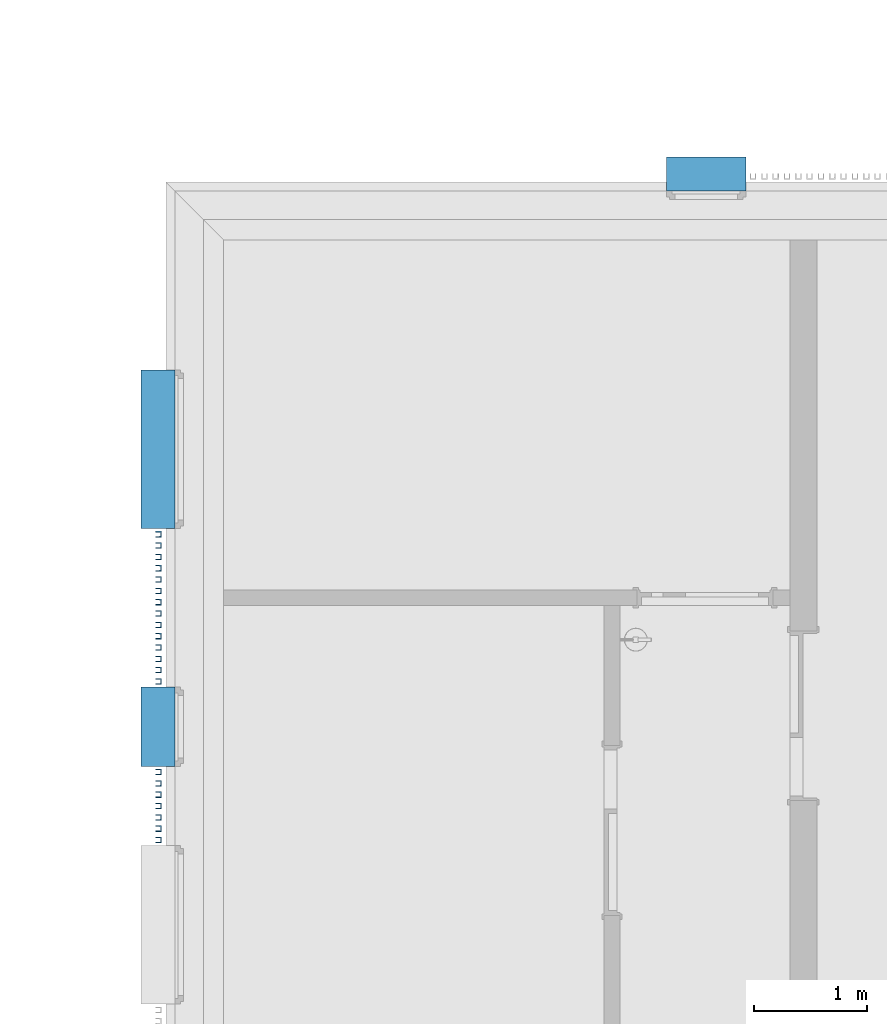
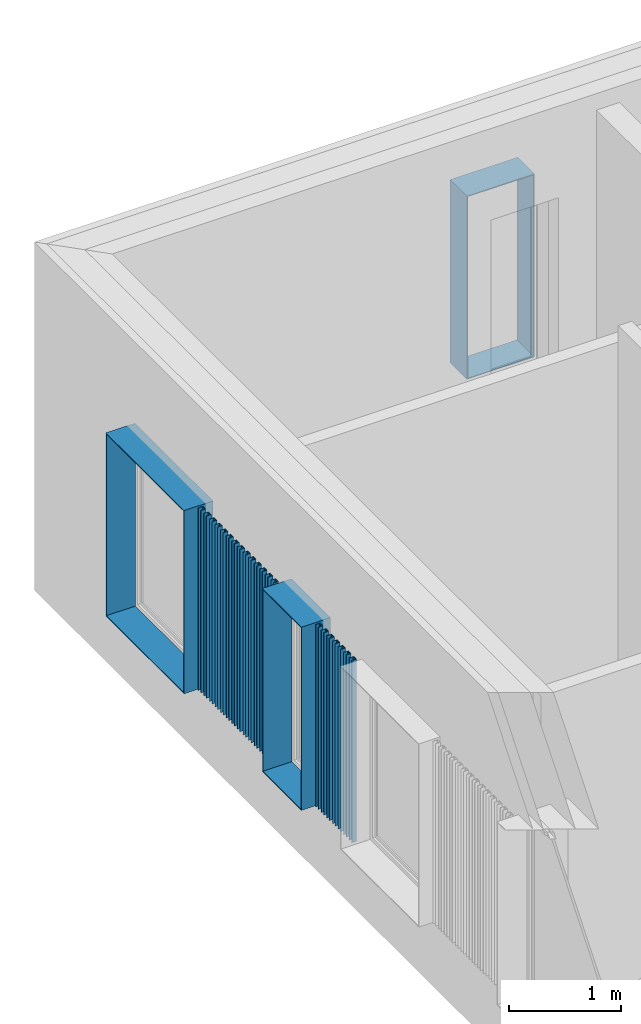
# One storey, part 44 of 100: 24 discrete accessories.
"""IFC2X3 building model written with IfcOpenShell, lengths in millimetres."""

from ifc_helpers import new_model, entity, si_unit, converted_unit, derived_unit, money_unit, direction, frame, origin_with_axes, place, context, subcontext, project, spatial, faceted_brep, source, transform, mapped, material, type_object, element, save


model = new_model("IFC2X3")

# Units and contexts
model_context = context("Model", 3, precision=0.01, world=origin_with_axes(), true_north=direction((0.0, 1.0)))
body_context = subcontext(model_context, "Body", "Model", "MODEL_VIEW")
ifc_project = project(units=[si_unit("LENGTHUNIT", "METRE", prefix="MILLI"), si_unit("AREAUNIT", "SQUARE_METRE"), si_unit("VOLUMEUNIT", "CUBIC_METRE"), converted_unit("PLANEANGLEUNIT", "DEGREE", entity("IfcPlaneAngleMeasure", 0.0174532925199), si_unit("PLANEANGLEUNIT", "RADIAN"), dimensions=[0, 0, 0, 0, 0, 0, 0]), si_unit("SOLIDANGLEUNIT", "STERADIAN"), money_unit("EUR"), converted_unit("TIMEUNIT", "Year", entity("IfcTimeMeasure", 31556926.0), si_unit("TIMEUNIT", "SECOND"), dimensions=[0, 0, 1, 0, 0, 0, 0]), si_unit("MASSUNIT", "GRAM", prefix="KILO"), si_unit("THERMODYNAMICTEMPERATUREUNIT", "DEGREE_CELSIUS"), si_unit("LUMINOUSINTENSITYUNIT", "LUMEN"), si_unit("ENERGYUNIT", "JOULE", prefix="MEGA"), derived_unit("THERMALCONDUCTANCEUNIT", [(si_unit("POWERUNIT", "WATT"), 1), (si_unit("LENGTHUNIT", "METRE"), -1), (si_unit("THERMODYNAMICTEMPERATUREUNIT", "KELVIN"), -1)]), derived_unit("SPECIFICHEATCAPACITYUNIT", [(si_unit("ENERGYUNIT", "JOULE"), 1), (si_unit("MASSUNIT", "GRAM", prefix="KILO"), -1), (si_unit("THERMODYNAMICTEMPERATUREUNIT", "KELVIN"), -1)]), derived_unit("MASSDENSITYUNIT", [(si_unit("MASSUNIT", "GRAM", prefix="KILO"), 1), (si_unit("VOLUMEUNIT", "CUBIC_METRE"), -1)])], contexts=[model_context])

# Site, building, storey
site_placement = place(None, origin_with_axes())
site = spatial("IfcSite", under=ifc_project, at=site_placement, Name="Politse- ja Piirivalveameti ning Päästeameti ühishoone", CompositionType="ELEMENT")
building_placement = place(site_placement, origin_with_axes())
building = spatial("IfcBuilding", under=site, at=building_placement, Name="Politse- ja Piirivalveameti ning Päästeameti ühishoone", CompositionType="ELEMENT")
storey_placement = place(building_placement, frame((0.0, 0.0, 3800.0), z_axis=(0.0, 0.0, 1.0), x_axis=(1.0, 0.0, 0.0)))
storey = spatial("IfcBuildingStorey", under=building, at=storey_placement, Name="Teine korrus", CompositionType="ELEMENT", Elevation=3800.0)

# Discrete accessories
ifc_material_1 = material(Name="SV-01_Krohv - Kips")
discrete_accessory_type_1 = type_object("IfcDiscreteAccessoryType", Name="Architrave 01 23")
shared_shape_1 = source(origin_with_axes(), body_context, "Body", "Brep", [
    faceted_brep([(700.0, 0.0, -10.0), (700.0, -300.182356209, -10.0), (-700.0, -300.182356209, -10.0), (-700.0, 0.0, -10.0), (690.0, 0.0, 0.0), (690.0, -300.182356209, 0.0), (-690.0, -300.182356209, 0.0), (-690.0, 0.0, 0.0)], [[[0, 1, 2, 3]], [[4, 5, 1, 0]], [[1, 5, 6, 2]], [[3, 2, 6, 7]], [[0, 3, 7, 4]], [[7, 6, 5, 4]]]),
    faceted_brep([(-700.0, 0.0, -10.0), (-700.0, -300.182356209, -10.0), (-700.0, -300.182356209, 1990.0), (-700.0, 0.0, 1990.0), (-690.0, 0.0, 0.0), (-690.0, -300.182356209, 0.0), (-690.0, -300.182356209, 1980.0), (-690.0, 0.0, 1980.0)], [[[0, 1, 2, 3]], [[4, 5, 1, 0]], [[1, 5, 6, 2]], [[3, 2, 6, 7]], [[0, 3, 7, 4]], [[7, 6, 5, 4]]]),
    faceted_brep([(-700.0, 0.0, 1990.0), (-700.0, -300.182356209, 1990.0), (700.0, -300.182356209, 1990.0), (700.0, 0.0, 1990.0), (-690.0, 0.0, 1980.0), (-690.0, -300.182356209, 1980.0), (690.0, -300.182356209, 1980.0), (690.0, 0.0, 1980.0)], [[[0, 1, 2, 3]], [[4, 5, 1, 0]], [[1, 5, 6, 2]], [[3, 2, 6, 7]], [[0, 3, 7, 4]], [[7, 6, 5, 4]]]),
    faceted_brep([(700.0, 0.0, 1990.0), (700.0, -300.182356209, 1990.0), (700.0, -300.182356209, -10.0), (700.0, 0.0, -10.0), (690.0, 0.0, 1980.0), (690.0, -300.182356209, 1980.0), (690.0, -300.182356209, 0.0), (690.0, 0.0, 0.0)], [[[0, 1, 2, 3]], [[4, 5, 1, 0]], [[1, 5, 6, 2]], [[3, 2, 6, 7]], [[0, 3, 7, 4]], [[7, 6, 5, 4]]]),
])
discrete_accessory_1_placement = place(storey_placement, frame((59730.5519118, 35649.9520832, 810.0), z_axis=(0.0, 0.0, 1.0), x_axis=(0.0, -1.0, 0.0)))
element("IfcDiscreteAccessory", 1, at=discrete_accessory_1_placement, inside=storey, type_object=discrete_accessory_type_1, material=ifc_material_1, Name="AKNARAAM 01", context=body_context, shape_type="MappedRepresentation", body=[
    mapped(shared_shape_1, transform((0.0, 0.0, 0.0))),
])
shared_shape_2 = source(origin_with_axes(), body_context, "Body", "Brep", [
    faceted_brep([(-350.0, 0.0, -10.0), (350.0, 0.0, -10.0), (350.0, -300.182356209, -10.0), (-350.0, -300.182356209, -10.0), (-340.0, 0.0, 0.0), (340.0, 0.0, 0.0), (340.0, -300.182356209, 0.0), (-340.0, -300.182356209, 0.0)], [[[0, 1, 2, 3]], [[0, 4, 5, 1]], [[1, 5, 6, 2]], [[3, 2, 6, 7]], [[4, 0, 3, 7]], [[5, 4, 7, 6]]]),
    faceted_brep([(350.0, 0.0, -10.0), (350.0, 0.0, 1990.0), (350.0, -300.182356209, 1990.0), (350.0, -300.182356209, -10.0), (340.0, 0.0, 0.0), (340.0, 0.0, 1980.0), (340.0, -300.182356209, 1980.0), (340.0, -300.182356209, 0.0)], [[[0, 1, 2, 3]], [[0, 4, 5, 1]], [[1, 5, 6, 2]], [[3, 2, 6, 7]], [[4, 0, 3, 7]], [[5, 4, 7, 6]]]),
    faceted_brep([(350.0, 0.0, 1990.0), (-350.0, 0.0, 1990.0), (-350.0, -300.182356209, 1990.0), (350.0, -300.182356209, 1990.0), (340.0, 0.0, 1980.0), (-340.0, 0.0, 1980.0), (-340.0, -300.182356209, 1980.0), (340.0, -300.182356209, 1980.0)], [[[0, 1, 2, 3]], [[0, 4, 5, 1]], [[1, 5, 6, 2]], [[3, 2, 6, 7]], [[4, 0, 3, 7]], [[5, 4, 7, 6]]]),
    faceted_brep([(-350.0, 0.0, 1990.0), (-350.0, 0.0, -10.0), (-350.0, -300.182356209, -10.0), (-350.0, -300.182356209, 1990.0), (-340.0, 0.0, 1980.0), (-340.0, 0.0, 0.0), (-340.0, -300.182356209, 0.0), (-340.0, -300.182356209, 1980.0)], [[[0, 1, 2, 3]], [[0, 4, 5, 1]], [[1, 5, 6, 2]], [[3, 2, 6, 7]], [[4, 0, 3, 7]], [[5, 4, 7, 6]]]),
])
discrete_accessory_2_placement = place(storey_placement, frame((64421.0631662, 37929.9521318, 810.0), z_axis=(0.0, 0.0, 1.0), x_axis=(-1.0, 0.0, 0.0)))
element("IfcDiscreteAccessory", 2, at=discrete_accessory_2_placement, inside=storey, type_object=discrete_accessory_type_1, material=ifc_material_1, Name="AKNARAAM 01", context=body_context, shape_type="MappedRepresentation", body=[
    mapped(shared_shape_2, transform((0.0, 0.0, 0.0))),
])
shared_shape_3 = source(origin_with_axes(), body_context, "Body", "Brep", [
    faceted_brep([(350.0, 0.0, -10.0), (350.0, -300.182356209, -10.0), (-350.0, -300.182356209, -10.0), (-350.0, 0.0, -10.0), (340.0, 0.0, 0.0), (340.0, -300.182356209, 0.0), (-340.0, -300.182356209, 0.0), (-340.0, 0.0, 0.0)], [[[0, 1, 2, 3]], [[4, 5, 1, 0]], [[1, 5, 6, 2]], [[3, 2, 6, 7]], [[0, 3, 7, 4]], [[7, 6, 5, 4]]]),
    faceted_brep([(-350.0, 0.0, -10.0), (-350.0, -300.182356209, -10.0), (-350.0, -300.182356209, 1990.0), (-350.0, 0.0, 1990.0), (-340.0, 0.0, 0.0), (-340.0, -300.182356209, 0.0), (-340.0, -300.182356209, 1980.0), (-340.0, 0.0, 1980.0)], [[[0, 1, 2, 3]], [[4, 5, 1, 0]], [[1, 5, 6, 2]], [[3, 2, 6, 7]], [[0, 3, 7, 4]], [[7, 6, 5, 4]]]),
    faceted_brep([(-350.0, 0.0, 1990.0), (-350.0, -300.182356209, 1990.0), (350.0, -300.182356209, 1990.0), (350.0, 0.0, 1990.0), (-340.0, 0.0, 1980.0), (-340.0, -300.182356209, 1980.0), (340.0, -300.182356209, 1980.0), (340.0, 0.0, 1980.0)], [[[0, 1, 2, 3]], [[4, 5, 1, 0]], [[1, 5, 6, 2]], [[3, 2, 6, 7]], [[0, 3, 7, 4]], [[7, 6, 5, 4]]]),
    faceted_brep([(350.0, 0.0, 1990.0), (350.0, -300.182356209, 1990.0), (350.0, -300.182356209, -10.0), (350.0, 0.0, -10.0), (340.0, 0.0, 1980.0), (340.0, -300.182356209, 1980.0), (340.0, -300.182356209, 0.0), (340.0, 0.0, 0.0)], [[[0, 1, 2, 3]], [[4, 5, 1, 0]], [[1, 5, 6, 2]], [[3, 2, 6, 7]], [[0, 3, 7, 4]], [[7, 6, 5, 4]]]),
])
discrete_accessory_3_placement = place(storey_placement, frame((59730.5519118, 33199.9520832, 810.0), z_axis=(0.0, 0.0, 1.0), x_axis=(0.0, -1.0, 0.0)))
element("IfcDiscreteAccessory", 3, at=discrete_accessory_3_placement, inside=storey, type_object=discrete_accessory_type_1, material=ifc_material_1, Name="AKNARAAM 01", context=body_context, shape_type="MappedRepresentation", body=[
    mapped(shared_shape_3, transform((0.0, 0.0, 0.0))),
])
ifc_material_2 = material(Name="ET-05_Teras")
discrete_accessory_type_2 = type_object("IfcDiscreteAccessoryType", Name="UAP Column 23")
shared_shape_4 = source(origin_with_axes(), body_context, "Body", "Brep", [
    faceted_brep([(-25.0, -25.0, 0.0), (-25.0, -25.0, 1990.0), (-25.0, -20.0, 1990.0), (-25.0, -20.0, 0.0), (25.0, -25.0, 0.0), (25.0, -25.0, 1990.0), (25.0, 25.0, 1990.0), (-25.0, 25.0, 1990.0), (-25.0, 20.0, 1990.0), (8.5, 20.0, 1990.0), (14.25, 18.4592921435, 1990.0), (18.4592921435, 14.25, 1990.0), (20.0, 8.5, 1990.0), (20.0, -8.5, 1990.0), (18.4592921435, -14.25, 1990.0), (14.25, -18.4592921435, 1990.0), (8.5, -20.0, 1990.0), (8.5, -20.0, 0.0), (14.25, -18.4592921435, 0.0), (18.4592921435, -14.25, 0.0), (20.0, -8.5, 0.0), (20.0, 8.5, 0.0), (18.4592921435, 14.25, 0.0), (14.25, 18.4592921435, 0.0), (8.5, 20.0, 0.0), (-25.0, 20.0, 0.0), (-25.0, 25.0, 0.0), (25.0, 25.0, 0.0)], [[[0, 1, 2, 3]], [[4, 5, 1, 0]], [[1, 5, 6, 7, 8, 9, 10, 11, 12, 13, 14, 15, 16, 2]], [[3, 2, 16, 17]], [[0, 3, 17, 18, 19, 20, 21, 22, 23, 24, 25, 26, 27, 4]], [[27, 6, 5, 4]], [[26, 7, 6, 27]], [[25, 8, 7, 26]], [[24, 9, 8, 25]], [[23, 10, 9, 24]], [[22, 11, 10, 23]], [[21, 12, 11, 22]], [[20, 13, 12, 21]], [[19, 14, 13, 20]], [[18, 15, 14, 19]], [[17, 16, 15, 18]]]),
])
for number, where, z_axis, x_axis in (
    (4, (59585.9088163, 34299.9520832, 810.000049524), (0.0, 0.0, 1.0), (1.0, 0.0, 0.0)),
    (5, (59585.9088163, 34399.9520832, 810.000049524), (0.0, 0.0, 1.0), (1.0, 0.0, 0.0)),
    (6, (59585.9088163, 34499.9520832, 810.000049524), (0.0, 0.0, 1.0), (1.0, 0.0, 0.0)),
    (7, (59585.9088163, 34599.9520832, 810.000049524), (0.0, 0.0, 1.0), (1.0, 0.0, 0.0)),
    (8, (59585.9088163, 34699.9520832, 810.000049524), (0.0, 0.0, 1.0), (1.0, 0.0, 0.0)),
    (9, (59585.9088163, 34799.9520832, 810.000049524), (0.0, 0.0, 1.0), (1.0, 0.0, 0.0)),
    (10, (59585.9088163, 34899.9520832, 810.000049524), (0.0, 0.0, 1.0), (1.0, 0.0, 0.0)),
    (11, (59585.9088163, 33899.9520832, 810.000049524), (0.0, 0.0, 1.0), (1.0, 0.0, 0.0)),
    (12, (59585.9088163, 33999.9520832, 810.000049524), (0.0, 0.0, 1.0), (1.0, 0.0, 0.0)),
    (13, (59585.9088163, 34099.9520832, 810.000049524), (0.0, 0.0, 1.0), (1.0, 0.0, 0.0)),
    (14, (59585.9088163, 34199.9520832, 810.000049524), (0.0, 0.0, 1.0), (1.0, 0.0, 0.0)),
    (15, (59585.9088163, 33599.9520832, 810.000049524), (0.0, 0.0, 1.0), (1.0, 0.0, 0.0)),
    (16, (59585.9088163, 33699.9520832, 810.000049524), (0.0, 0.0, 1.0), (1.0, 0.0, 0.0)),
    (17, (59585.9088163, 33799.9520832, 810.000049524), (0.0, 0.0, 1.0), (1.0, 0.0, 0.0)),
    (18, (59585.9088163, 32499.9520832, 810.000049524), (0.0, 0.0, 1.0), (1.0, 0.0, 0.0)),
    (19, (59585.9088163, 32599.9520832, 810.000049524), (0.0, 0.0, 1.0), (1.0, 0.0, 0.0)),
    (20, (59585.9088163, 32699.9520832, 810.000049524), (0.0, 0.0, 1.0), (1.0, 0.0, 0.0)),
    (21, (59585.9088163, 32799.9520832, 810.000049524), (0.0, 0.0, 1.0), (1.0, 0.0, 0.0)),
    (22, (59585.9088163, 32199.9520832, 810.000049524), (0.0, 0.0, 1.0), (1.0, 0.0, 0.0)),
    (23, (59585.9088163, 32299.9520832, 810.000049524), (0.0, 0.0, 1.0), (1.0, 0.0, 0.0)),
    (24, (59585.9088163, 32399.9520832, 810.000049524), (0.0, 0.0, 1.0), (1.0, 0.0, 0.0)),
):
    element("IfcDiscreteAccessory", number, at=place(storey_placement, frame(where, z_axis=z_axis, x_axis=x_axis)), inside=storey, type_object=discrete_accessory_type_2, material=ifc_material_2, Name="Fassaadiribid", context=body_context, shape_type="MappedRepresentation", body=[
        mapped(shared_shape_4, transform((0.0, 0.0, 0.0))),
    ])

save(model, "model.ifc")
